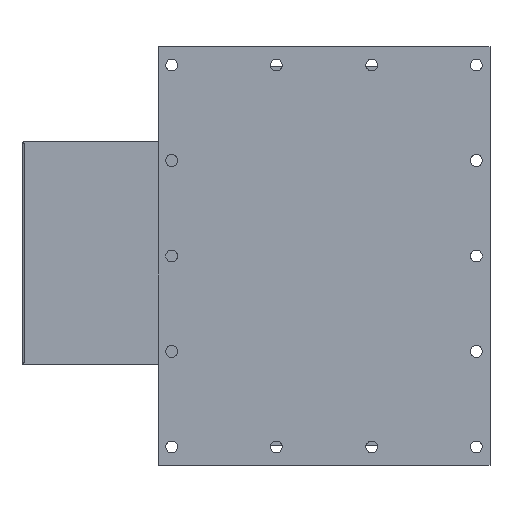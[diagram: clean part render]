
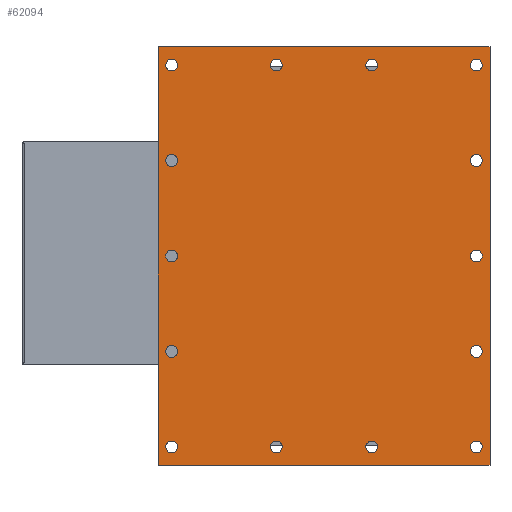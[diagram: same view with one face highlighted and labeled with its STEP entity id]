
A CAD part, top view. The second image highlights one B-rep face of the part: STEP entity #62094.
In plain terms, the highlighted planar face has unit normal (0, 0, 1).
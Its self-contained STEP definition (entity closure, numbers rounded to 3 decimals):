
#3120=FACE_BOUND('',#19642,.T.);
#3121=FACE_BOUND('',#19643,.T.);
#3122=FACE_BOUND('',#19644,.T.);
#3123=FACE_BOUND('',#19645,.T.);
#3124=FACE_BOUND('',#19646,.T.);
#3125=FACE_BOUND('',#19647,.T.);
#3126=FACE_BOUND('',#19648,.T.);
#3127=FACE_BOUND('',#19649,.T.);
#3128=FACE_BOUND('',#19650,.T.);
#3129=FACE_BOUND('',#19651,.T.);
#3130=FACE_BOUND('',#19652,.T.);
#3131=FACE_BOUND('',#19653,.T.);
#3132=FACE_BOUND('',#19654,.T.);
#3133=FACE_BOUND('',#19655,.T.);
#5852=LINE('',#102123,#10827);
#5853=LINE('',#102125,#10828);
#5854=LINE('',#102127,#10829);
#5855=LINE('',#102128,#10830);
#10827=VECTOR('',#77342,730.);
#10828=VECTOR('',#77343,920.);
#10829=VECTOR('',#77344,730.);
#10830=VECTOR('',#77345,920.);
#15736=FACE_OUTER_BOUND('',#19641,.T.);
#19641=EDGE_LOOP('',(#46298,#46299,#46300,#46301));
#19642=EDGE_LOOP('',(#46302));
#19643=EDGE_LOOP('',(#46303));
#19644=EDGE_LOOP('',(#46304));
#19645=EDGE_LOOP('',(#46305));
#19646=EDGE_LOOP('',(#46306));
#19647=EDGE_LOOP('',(#46307));
#19648=EDGE_LOOP('',(#46308));
#19649=EDGE_LOOP('',(#46309));
#19650=EDGE_LOOP('',(#46310));
#19651=EDGE_LOOP('',(#46311));
#19652=EDGE_LOOP('',(#46312));
#19653=EDGE_LOOP('',(#46313));
#19654=EDGE_LOOP('',(#46314));
#19655=EDGE_LOOP('',(#46315));
#21578=CIRCLE('',#63948,13.);
#21580=CIRCLE('',#63951,13.);
#21582=CIRCLE('',#63954,13.);
#21584=CIRCLE('',#63957,13.);
#21586=CIRCLE('',#63960,13.);
#21588=CIRCLE('',#63963,13.);
#21590=CIRCLE('',#63966,13.);
#21592=CIRCLE('',#63969,13.);
#21594=CIRCLE('',#63972,13.);
#21596=CIRCLE('',#63975,13.);
#21598=CIRCLE('',#63978,13.);
#21600=CIRCLE('',#63981,13.);
#21602=CIRCLE('',#63984,13.);
#21604=CIRCLE('',#63987,13.);
#23650=VERTEX_POINT('',#85047);
#23652=VERTEX_POINT('',#85052);
#23654=VERTEX_POINT('',#85057);
#23656=VERTEX_POINT('',#85062);
#23658=VERTEX_POINT('',#85067);
#23660=VERTEX_POINT('',#85072);
#23662=VERTEX_POINT('',#85077);
#23664=VERTEX_POINT('',#85082);
#23666=VERTEX_POINT('',#85087);
#23668=VERTEX_POINT('',#85092);
#23670=VERTEX_POINT('',#85097);
#23672=VERTEX_POINT('',#85102);
#23674=VERTEX_POINT('',#85107);
#23676=VERTEX_POINT('',#85112);
#26510=VERTEX_POINT('',#102121);
#26511=VERTEX_POINT('',#102122);
#26512=VERTEX_POINT('',#102124);
#26513=VERTEX_POINT('',#102126);
#29257=EDGE_CURVE('',#23650,#23650,#21578,.T.);
#29259=EDGE_CURVE('',#23652,#23652,#21580,.T.);
#29261=EDGE_CURVE('',#23654,#23654,#21582,.T.);
#29263=EDGE_CURVE('',#23656,#23656,#21584,.T.);
#29265=EDGE_CURVE('',#23658,#23658,#21586,.T.);
#29267=EDGE_CURVE('',#23660,#23660,#21588,.T.);
#29269=EDGE_CURVE('',#23662,#23662,#21590,.T.);
#29271=EDGE_CURVE('',#23664,#23664,#21592,.T.);
#29273=EDGE_CURVE('',#23666,#23666,#21594,.T.);
#29275=EDGE_CURVE('',#23668,#23668,#21596,.T.);
#29277=EDGE_CURVE('',#23670,#23670,#21598,.T.);
#29279=EDGE_CURVE('',#23672,#23672,#21600,.T.);
#29281=EDGE_CURVE('',#23674,#23674,#21602,.T.);
#29283=EDGE_CURVE('',#23676,#23676,#21604,.T.);
#33531=EDGE_CURVE('',#26510,#26511,#5852,.T.);
#33532=EDGE_CURVE('',#26512,#26510,#5853,.T.);
#33533=EDGE_CURVE('',#26513,#26512,#5854,.T.);
#33534=EDGE_CURVE('',#26511,#26513,#5855,.T.);
#46298=ORIENTED_EDGE('',*,*,#33531,.F.);
#46299=ORIENTED_EDGE('',*,*,#33532,.F.);
#46300=ORIENTED_EDGE('',*,*,#33533,.F.);
#46301=ORIENTED_EDGE('',*,*,#33534,.F.);
#46302=ORIENTED_EDGE('',*,*,#29257,.T.);
#46303=ORIENTED_EDGE('',*,*,#29259,.T.);
#46304=ORIENTED_EDGE('',*,*,#29261,.T.);
#46305=ORIENTED_EDGE('',*,*,#29263,.T.);
#46306=ORIENTED_EDGE('',*,*,#29265,.T.);
#46307=ORIENTED_EDGE('',*,*,#29267,.T.);
#46308=ORIENTED_EDGE('',*,*,#29269,.T.);
#46309=ORIENTED_EDGE('',*,*,#29271,.T.);
#46310=ORIENTED_EDGE('',*,*,#29273,.T.);
#46311=ORIENTED_EDGE('',*,*,#29275,.T.);
#46312=ORIENTED_EDGE('',*,*,#29277,.T.);
#46313=ORIENTED_EDGE('',*,*,#29279,.T.);
#46314=ORIENTED_EDGE('',*,*,#29281,.T.);
#46315=ORIENTED_EDGE('',*,*,#29283,.T.);
#56195=PLANE('',#66649);
#62094=ADVANCED_FACE('',(#15736,#3120,#3121,#3122,#3123,#3124,#3125,#3126,
#3127,#3128,#3129,#3130,#3131,#3132,#3133),#56195,.T.);
#63948=AXIS2_PLACEMENT_3D('',#85048,#69408,#69409);
#63951=AXIS2_PLACEMENT_3D('',#85053,#69414,#69415);
#63954=AXIS2_PLACEMENT_3D('',#85058,#69420,#69421);
#63957=AXIS2_PLACEMENT_3D('',#85063,#69426,#69427);
#63960=AXIS2_PLACEMENT_3D('',#85068,#69432,#69433);
#63963=AXIS2_PLACEMENT_3D('',#85073,#69438,#69439);
#63966=AXIS2_PLACEMENT_3D('',#85078,#69444,#69445);
#63969=AXIS2_PLACEMENT_3D('',#85083,#69450,#69451);
#63972=AXIS2_PLACEMENT_3D('',#85088,#69456,#69457);
#63975=AXIS2_PLACEMENT_3D('',#85093,#69462,#69463);
#63978=AXIS2_PLACEMENT_3D('',#85098,#69468,#69469);
#63981=AXIS2_PLACEMENT_3D('',#85103,#69474,#69475);
#63984=AXIS2_PLACEMENT_3D('',#85108,#69480,#69481);
#63987=AXIS2_PLACEMENT_3D('',#85113,#69486,#69487);
#66649=AXIS2_PLACEMENT_3D('',#102120,#77340,#77341);
#69408=DIRECTION('center_axis',(0.,0.,
-1.));
#69409=DIRECTION('ref_axis',(1.,0.,0.));
#69414=DIRECTION('center_axis',(0.,0.,
-1.));
#69415=DIRECTION('ref_axis',(1.,0.,0.));
#69420=DIRECTION('center_axis',(0.,0.,
-1.));
#69421=DIRECTION('ref_axis',(1.,0.,0.));
#69426=DIRECTION('center_axis',(0.,0.,
-1.));
#69427=DIRECTION('ref_axis',(1.,0.,0.));
#69432=DIRECTION('center_axis',(0.,0.,
-1.));
#69433=DIRECTION('ref_axis',(1.,0.,0.));
#69438=DIRECTION('center_axis',(0.,0.,
-1.));
#69439=DIRECTION('ref_axis',(1.,0.,0.));
#69444=DIRECTION('center_axis',(0.,0.,
-1.));
#69445=DIRECTION('ref_axis',(1.,0.,0.));
#69450=DIRECTION('center_axis',(0.,0.,
-1.));
#69451=DIRECTION('ref_axis',(1.,0.,0.));
#69456=DIRECTION('center_axis',(0.,0.,
-1.));
#69457=DIRECTION('ref_axis',(1.,0.,0.));
#69462=DIRECTION('center_axis',(0.,0.,
-1.));
#69463=DIRECTION('ref_axis',(1.,0.,0.));
#69468=DIRECTION('center_axis',(0.,0.,
-1.));
#69469=DIRECTION('ref_axis',(1.,0.,0.));
#69474=DIRECTION('center_axis',(0.,0.,
-1.));
#69475=DIRECTION('ref_axis',(1.,0.,0.));
#69480=DIRECTION('center_axis',(0.,0.,
-1.));
#69481=DIRECTION('ref_axis',(1.,0.,0.));
#69486=DIRECTION('center_axis',(0.,0.,
-1.));
#69487=DIRECTION('ref_axis',(1.,0.,0.));
#77340=DIRECTION('center_axis',(0.,0.,
1.));
#77341=DIRECTION('ref_axis',(0.,1.,0.));
#77342=DIRECTION('',(-1.,0.,0.));
#77343=DIRECTION('',(0.,-1.,0.));
#77344=DIRECTION('',(1.,0.,0.));
#77345=DIRECTION('',(0.,1.,0.));
#85047=CARTESIAN_POINT('',(348.,-210.,12.5));
#85048=CARTESIAN_POINT('Origin',(335.,-210.,12.5));
#85052=CARTESIAN_POINT('',(348.,210.,12.5));
#85053=CARTESIAN_POINT('Origin',(335.,210.,12.5));
#85057=CARTESIAN_POINT('',(118.,420.,12.5));
#85058=CARTESIAN_POINT('Origin',(105.,420.,12.5));
#85062=CARTESIAN_POINT('',(-92.,-420.,12.5));
#85063=CARTESIAN_POINT('Origin',(-105.,-420.,12.5));
#85067=CARTESIAN_POINT('',(-322.,420.,12.5));
#85068=CARTESIAN_POINT('Origin',(-335.,420.,12.5));
#85072=CARTESIAN_POINT('',(-322.,0.,12.5));
#85073=CARTESIAN_POINT('Origin',(-335.,0.,12.5));
#85077=CARTESIAN_POINT('',(-322.,-420.,12.5));
#85078=CARTESIAN_POINT('Origin',(-335.,-420.,12.5));
#85082=CARTESIAN_POINT('',(-322.,-210.,12.5));
#85083=CARTESIAN_POINT('Origin',(-335.,-210.,12.5));
#85087=CARTESIAN_POINT('',(-322.,210.,12.5));
#85088=CARTESIAN_POINT('Origin',(-335.,210.,12.5));
#85092=CARTESIAN_POINT('',(-92.,420.,12.5));
#85093=CARTESIAN_POINT('Origin',(-105.,420.,12.5));
#85097=CARTESIAN_POINT('',(118.,-420.,12.5));
#85098=CARTESIAN_POINT('Origin',(105.,-420.,12.5));
#85102=CARTESIAN_POINT('',(348.,420.,12.5));
#85103=CARTESIAN_POINT('Origin',(335.,420.,12.5));
#85107=CARTESIAN_POINT('',(348.,0.,12.5));
#85108=CARTESIAN_POINT('Origin',(335.,0.,12.5));
#85112=CARTESIAN_POINT('',(348.,-420.,12.5));
#85113=CARTESIAN_POINT('Origin',(335.,-420.,12.5));
#102120=CARTESIAN_POINT('Origin',(0.,0.,
12.5));
#102121=CARTESIAN_POINT('',(365.,-460.,12.5));
#102122=CARTESIAN_POINT('',(-365.,-460.,12.5));
#102123=CARTESIAN_POINT('',(-365.,-460.,12.5));
#102124=CARTESIAN_POINT('',(365.,460.,12.5));
#102125=CARTESIAN_POINT('',(365.,-460.,12.5));
#102126=CARTESIAN_POINT('',(-365.,460.,12.5));
#102127=CARTESIAN_POINT('',(365.,460.,12.5));
#102128=CARTESIAN_POINT('',(-365.,460.,12.5));
